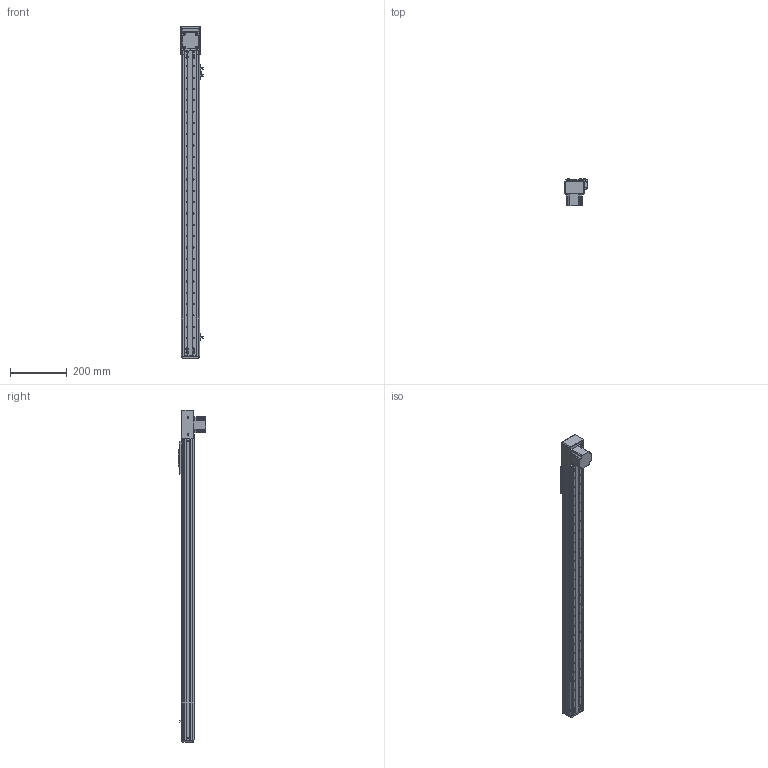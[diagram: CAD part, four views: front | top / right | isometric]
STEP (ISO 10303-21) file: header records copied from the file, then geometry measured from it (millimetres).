
FILE_DESCRIPTION (( 'STEP AP203' ), '1' );
FILE_NAME ('RY60F-T-350-DK.SLDASM_900.step', '2021-03-02T00:56:09', ( '盈信电脑' ), ( '东莞市道滘镇水果街19号' ), 'SwSTEP 2.0', 'SolidWorks 2012', '' );
FILE_SCHEMA (( 'CONFIG_CONTROL_DESIGN' ));
Length unit declared in the file: millimetre
Products named in the file (19): RY60F-T-350-DK.SLDASM_900; RY60F-肮祭湍揤輸; RY60F-肮祭湍揤輸2; 57祭輛萇儂; RY60F-T-狟殏欶; 滅袉蝶18-24; RY60F-T-下折同步带拉紧板; RY60F-T-57萇儂奻殏假蚾啣; RY60F-350-肮祭湍滅鳥詩え-DK_900; RY50F-350-MR15W絳寢-DK_900; RY60F-350肮祭湍俋褲-DK_900; 覜茼ん672; RY60F-T-下折57电机端同步轮座; RY60F-祥凄詩滅鳥裔; RY60F-嫖萇羲壽結え; RY50-60詩湍揤啣; RY60F-滅鳥詩え盓殤; RY60F-肮祭湍臏賑輸; RY60F-浮动端同步轮支撑座
Assembly tree (23 placements, depth 2):
  RY60F-T-350-DK.SLDASM_900
    RY60F-肮祭湍臏賑輸
    RY60F-浮动端同步轮支撑座
    RY60F-滅鳥詩え盓殤
    RY60F-嫖萇羲壽結え
    RY50-60詩湍揤啣  x2
    RY60F-祥凄詩滅鳥裔
    RY60F-T-下折57电机端同步轮座
    RY60F-350肮祭湍俋褲-DK_900  x2
    覜茼ん672  x3
    RY60F-350-肮祭湍滅鳥詩え-DK_900
    RY50F-350-MR15W絳寢-DK_900
    滅袉蝶18-24  x2
    RY60F-T-57萇儂奻殏假蚾啣
    RY60F-T-下折同步带拉紧板
    RY60F-肮祭湍揤輸
    RY60F-肮祭湍揤輸2
    57祭輛萇儂
    RY60F-T-狟殏欶
Bounding box: 80.76 x 96.5 x 1173 mm (x, y, z)
Volume: 1070982 mm3; surface area: 722859.7 mm2
Topology: 23 solids, 23 shells, 1202 faces, 3302 edges, 2124 vertices
Faces by surface type: cylinder 575, plane 546, cone 71, bspline 10
Entity records: 37165 total; most frequent: CARTESIAN_POINT 6721, DIRECTION 6028, ORIENTED_EDGE 5780, EDGE_CURVE 2890, AXIS2_PLACEMENT_3D 2139, VERTEX_POINT 1892, VECTOR 1750, LINE 1750
